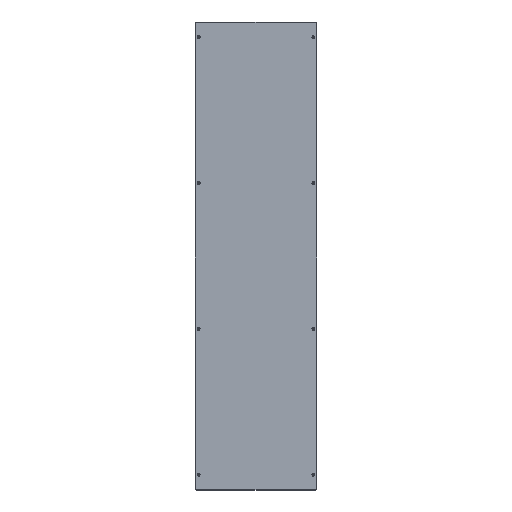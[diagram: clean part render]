
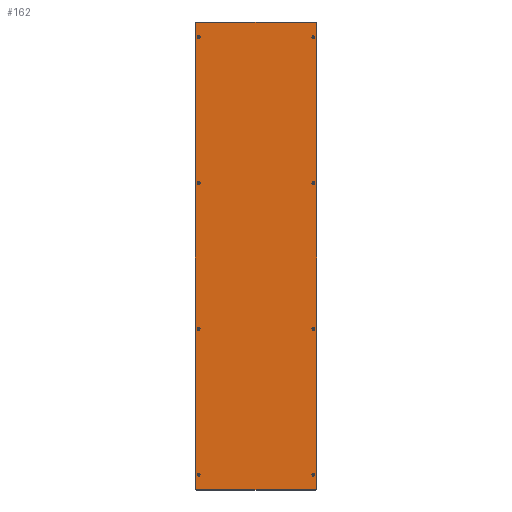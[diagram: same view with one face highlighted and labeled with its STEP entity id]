
A CAD part, top view. The second image highlights one B-rep face of the part: STEP entity #162.
In plain terms, the highlighted planar face has unit normal (0, 0, 1).
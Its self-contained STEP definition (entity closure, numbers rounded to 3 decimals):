
#162 = ADVANCED_FACE( '', ( #423, #424, #425, #426, #427, #428, #429, #430, #431 ), #432, .F. );
#423 = FACE_BOUND( '', #816, .T. );
#424 = FACE_BOUND( '', #817, .T. );
#425 = FACE_BOUND( '', #818, .T. );
#426 = FACE_BOUND( '', #819, .T. );
#427 = FACE_BOUND( '', #820, .T. );
#428 = FACE_BOUND( '', #821, .T. );
#429 = FACE_BOUND( '', #822, .T. );
#430 = FACE_BOUND( '', #823, .T. );
#431 = FACE_OUTER_BOUND( '', #824, .T. );
#432 = PLANE( '', #825 );
#816 = EDGE_LOOP( '', ( #1258 ) );
#817 = EDGE_LOOP( '', ( #1259 ) );
#818 = EDGE_LOOP( '', ( #1260 ) );
#819 = EDGE_LOOP( '', ( #1261 ) );
#820 = EDGE_LOOP( '', ( #1262 ) );
#821 = EDGE_LOOP( '', ( #1263 ) );
#822 = EDGE_LOOP( '', ( #1264 ) );
#823 = EDGE_LOOP( '', ( #1265 ) );
#824 = EDGE_LOOP( '', ( #1266, #1267, #1268, #1269, #1270, #1271, #1272, #1273, #1274, #1275, #1276, #1277 ) );
#825 = AXIS2_PLACEMENT_3D( '', #1278, #1279, #1280 );
#1258 = ORIENTED_EDGE( '', *, *, #2238, .F. );
#1259 = ORIENTED_EDGE( '', *, *, #2239, .F. );
#1260 = ORIENTED_EDGE( '', *, *, #2240, .F. );
#1261 = ORIENTED_EDGE( '', *, *, #2241, .F. );
#1262 = ORIENTED_EDGE( '', *, *, #2242, .F. );
#1263 = ORIENTED_EDGE( '', *, *, #2243, .F. );
#1264 = ORIENTED_EDGE( '', *, *, #2244, .F. );
#1265 = ORIENTED_EDGE( '', *, *, #2205, .F. );
#1266 = ORIENTED_EDGE( '', *, *, #2245, .F. );
#1267 = ORIENTED_EDGE( '', *, *, #2246, .F. );
#1268 = ORIENTED_EDGE( '', *, *, #2219, .T. );
#1269 = ORIENTED_EDGE( '', *, *, #2247, .T. );
#1270 = ORIENTED_EDGE( '', *, *, #2248, .F. );
#1271 = ORIENTED_EDGE( '', *, *, #2249, .T. );
#1272 = ORIENTED_EDGE( '', *, *, #2250, .T. );
#1273 = ORIENTED_EDGE( '', *, *, #2251, .T. );
#1274 = ORIENTED_EDGE( '', *, *, #2252, .F. );
#1275 = ORIENTED_EDGE( '', *, *, #2253, .F. );
#1276 = ORIENTED_EDGE( '', *, *, #2254, .T. );
#1277 = ORIENTED_EDGE( '', *, *, #2255, .F. );
#1278 = CARTESIAN_POINT( '', ( -281., 2161.5, 18. ) );
#1279 = DIRECTION( '', ( 0., 0., -1. ) );
#1280 = DIRECTION( '', ( -1., 0., 0. ) );
#2205 = EDGE_CURVE( '', #2620, #2620, #2621, .F. );
#2219 = EDGE_CURVE( '', #2629, #2645, #2647, .T. );
#2238 = EDGE_CURVE( '', #2678, #2678, #2679, .F. );
#2239 = EDGE_CURVE( '', #2680, #2680, #2681, .F. );
#2240 = EDGE_CURVE( '', #2682, #2682, #2683, .F. );
#2241 = EDGE_CURVE( '', #2684, #2684, #2685, .F. );
#2242 = EDGE_CURVE( '', #2686, #2686, #2687, .F. );
#2243 = EDGE_CURVE( '', #2688, #2688, #2689, .F. );
#2244 = EDGE_CURVE( '', #2690, #2690, #2691, .F. );
#2245 = EDGE_CURVE( '', #2692, #2693, #2694, .T. );
#2246 = EDGE_CURVE( '', #2629, #2692, #2695, .T. );
#2247 = EDGE_CURVE( '', #2645, #2696, #2697, .T. );
#2248 = EDGE_CURVE( '', #2698, #2696, #2699, .T. );
#2249 = EDGE_CURVE( '', #2698, #2700, #2701, .T. );
#2250 = EDGE_CURVE( '', #2700, #2702, #2703, .T. );
#2251 = EDGE_CURVE( '', #2702, #2704, #2705, .T. );
#2252 = EDGE_CURVE( '', #2706, #2704, #2707, .T. );
#2253 = EDGE_CURVE( '', #2708, #2706, #2709, .T. );
#2254 = EDGE_CURVE( '', #2708, #2710, #2711, .T. );
#2255 = EDGE_CURVE( '', #2693, #2710, #2712, .T. );
#2620 = VERTEX_POINT( '', #3230 );
#2621 = CIRCLE( '', #3231, 6.492 );
#2629 = VERTEX_POINT( '', #3239 );
#2645 = VERTEX_POINT( '', #3263 );
#2647 = LINE( '', #3266, #3267 );
#2678 = VERTEX_POINT( '', #3311 );
#2679 = CIRCLE( '', #3312, 6.138 );
#2680 = VERTEX_POINT( '', #3313 );
#2681 = CIRCLE( '', #3314, 6.138 );
#2682 = VERTEX_POINT( '', #3315 );
#2683 = CIRCLE( '', #3316, 6.138 );
#2684 = VERTEX_POINT( '', #3317 );
#2685 = CIRCLE( '', #3318, 6.492 );
#2686 = VERTEX_POINT( '', #3319 );
#2687 = CIRCLE( '', #3320, 6.138 );
#2688 = VERTEX_POINT( '', #3321 );
#2689 = CIRCLE( '', #3322, 6.138 );
#2690 = VERTEX_POINT( '', #3323 );
#2691 = CIRCLE( '', #3324, 6.138 );
#2692 = VERTEX_POINT( '', #3325 );
#2693 = VERTEX_POINT( '', #3326 );
#2694 = LINE( '', #3327, #3328 );
#2695 = LINE( '', #3329, #3330 );
#2696 = VERTEX_POINT( '', #3331 );
#2697 = LINE( '', #3332, #3333 );
#2698 = VERTEX_POINT( '', #3334 );
#2699 = LINE( '', #3335, #3336 );
#2700 = VERTEX_POINT( '', #3337 );
#2701 = LINE( '', #3338, #3339 );
#2702 = VERTEX_POINT( '', #3340 );
#2703 = LINE( '', #3341, #3342 );
#2704 = VERTEX_POINT( '', #3343 );
#2705 = LINE( '', #3344, #3345 );
#2706 = VERTEX_POINT( '', #3346 );
#2707 = LINE( '', #3347, #3348 );
#2708 = VERTEX_POINT( '', #3349 );
#2709 = LINE( '', #3350, #3351 );
#2710 = VERTEX_POINT( '', #3352 );
#2711 = LINE( '', #3353, #3354 );
#2712 = LINE( '', #3355, #3356 );
#3230 = CARTESIAN_POINT( '', ( -271.492, 2094.5, 18. ) );
#3231 = AXIS2_PLACEMENT_3D( '', #4198, #4199, #4200 );
#3239 = CARTESIAN_POINT( '', ( 278.5, 2164., 18. ) );
#3263 = CARTESIAN_POINT( '', ( -278.5, 2164., 18. ) );
#3266 = CARTESIAN_POINT( '', ( 278.5, 2164., 18. ) );
#3267 = VECTOR( '', #4216, 1000. );
#3311 = CARTESIAN_POINT( '', ( 258.862, 1419.5, 18. ) );
#3312 = AXIS2_PLACEMENT_3D( '', #4236, #4237, #4238 );
#3313 = CARTESIAN_POINT( '', ( 258.862, 744.5, 18. ) );
#3314 = AXIS2_PLACEMENT_3D( '', #4239, #4240, #4241 );
#3315 = CARTESIAN_POINT( '', ( -271.138, 744.5, 18. ) );
#3316 = AXIS2_PLACEMENT_3D( '', #4242, #4243, #4244 );
#3317 = CARTESIAN_POINT( '', ( -271.492, 1419.5, 18. ) );
#3318 = AXIS2_PLACEMENT_3D( '', #4245, #4246, #4247 );
#3319 = CARTESIAN_POINT( '', ( 258.862, 2094.5, 18. ) );
#3320 = AXIS2_PLACEMENT_3D( '', #4248, #4249, #4250 );
#3321 = CARTESIAN_POINT( '', ( 258.862, 69.5, 18. ) );
#3322 = AXIS2_PLACEMENT_3D( '', #4251, #4252, #4253 );
#3323 = CARTESIAN_POINT( '', ( -271.138, 69.5, 18. ) );
#3324 = AXIS2_PLACEMENT_3D( '', #4254, #4255, #4256 );
#3325 = CARTESIAN_POINT( '', ( 278.5, 2161.5, 18. ) );
#3326 = CARTESIAN_POINT( '', ( 281., 2161.5, 18. ) );
#3327 = CARTESIAN_POINT( '', ( -281., 2161.5, 18. ) );
#3328 = VECTOR( '', #4257, 1000. );
#3329 = CARTESIAN_POINT( '', ( 278.5, 2164., 18. ) );
#3330 = VECTOR( '', #4258, 1000. );
#3331 = CARTESIAN_POINT( '', ( -278.5, 2161.5, 18. ) );
#3332 = CARTESIAN_POINT( '', ( -278.5, 2164., 18. ) );
#3333 = VECTOR( '', #4259, 1000. );
#3334 = CARTESIAN_POINT( '', ( -281., 2161.5, 18. ) );
#3335 = CARTESIAN_POINT( '', ( -281., 2161.5, 18. ) );
#3336 = VECTOR( '', #4260, 1000. );
#3337 = CARTESIAN_POINT( '', ( -281., 2.5, 18. ) );
#3338 = CARTESIAN_POINT( '', ( -281., 2161.5, 18. ) );
#3339 = VECTOR( '', #4261, 1000. );
#3340 = CARTESIAN_POINT( '', ( -278.5, 2.5, 18. ) );
#3341 = CARTESIAN_POINT( '', ( -281., 2.5, 18. ) );
#3342 = VECTOR( '', #4262, 1000. );
#3343 = CARTESIAN_POINT( '', ( -278.5, 0., 18. ) );
#3344 = CARTESIAN_POINT( '', ( -278.5, 2164., 18. ) );
#3345 = VECTOR( '', #4263, 1000. );
#3346 = CARTESIAN_POINT( '', ( 278.5, 0., 18. ) );
#3347 = CARTESIAN_POINT( '', ( 278.5, 0., 18. ) );
#3348 = VECTOR( '', #4264, 1000. );
#3349 = CARTESIAN_POINT( '', ( 278.5, 2.5, 18. ) );
#3350 = CARTESIAN_POINT( '', ( 278.5, 2164., 18. ) );
#3351 = VECTOR( '', #4265, 1000. );
#3352 = CARTESIAN_POINT( '', ( 281., 2.5, 18. ) );
#3353 = CARTESIAN_POINT( '', ( -281., 2.5, 18. ) );
#3354 = VECTOR( '', #4266, 1000. );
#3355 = CARTESIAN_POINT( '', ( 281., 2161.5, 18. ) );
#3356 = VECTOR( '', #4267, 1000. );
#4198 = CARTESIAN_POINT( '', ( -265., 2094.5, 18. ) );
#4199 = DIRECTION( '', ( 0., 0., -1. ) );
#4200 = DIRECTION( '', ( -1., 0., 0. ) );
#4216 = DIRECTION( '', ( -1., 0., 0. ) );
#4236 = CARTESIAN_POINT( '', ( 265., 1419.5, 18. ) );
#4237 = DIRECTION( '', ( 0., 0., -1. ) );
#4238 = DIRECTION( '', ( -1., 0., 0. ) );
#4239 = CARTESIAN_POINT( '', ( 265., 744.5, 18. ) );
#4240 = DIRECTION( '', ( 0., 0., -1. ) );
#4241 = DIRECTION( '', ( -1., 0., 0. ) );
#4242 = CARTESIAN_POINT( '', ( -265., 744.5, 18. ) );
#4243 = DIRECTION( '', ( 0., 0., -1. ) );
#4244 = DIRECTION( '', ( -1., 0., 0. ) );
#4245 = CARTESIAN_POINT( '', ( -265., 1419.5, 18. ) );
#4246 = DIRECTION( '', ( 0., 0., -1. ) );
#4247 = DIRECTION( '', ( -1., 0., 0. ) );
#4248 = CARTESIAN_POINT( '', ( 265., 2094.5, 18. ) );
#4249 = DIRECTION( '', ( 0., 0., -1. ) );
#4250 = DIRECTION( '', ( -1., 0., 0. ) );
#4251 = CARTESIAN_POINT( '', ( 265., 69.5, 18. ) );
#4252 = DIRECTION( '', ( 0., 0., -1. ) );
#4253 = DIRECTION( '', ( -1., 0., 0. ) );
#4254 = CARTESIAN_POINT( '', ( -265., 69.5, 18. ) );
#4255 = DIRECTION( '', ( 0., 0., -1. ) );
#4256 = DIRECTION( '', ( -1., 0., 0. ) );
#4257 = DIRECTION( '', ( 1., 0., 0. ) );
#4258 = DIRECTION( '', ( 0., -1., 0. ) );
#4259 = DIRECTION( '', ( 0., -1., 0. ) );
#4260 = DIRECTION( '', ( 1., 0., 0. ) );
#4261 = DIRECTION( '', ( 0., -1., 0. ) );
#4262 = DIRECTION( '', ( 1., 0., 0. ) );
#4263 = DIRECTION( '', ( 0., -1., 0. ) );
#4264 = DIRECTION( '', ( -1., 0., 0. ) );
#4265 = DIRECTION( '', ( 0., -1., 0. ) );
#4266 = DIRECTION( '', ( 1., 0., 0. ) );
#4267 = DIRECTION( '', ( 0., -1., 0. ) );
